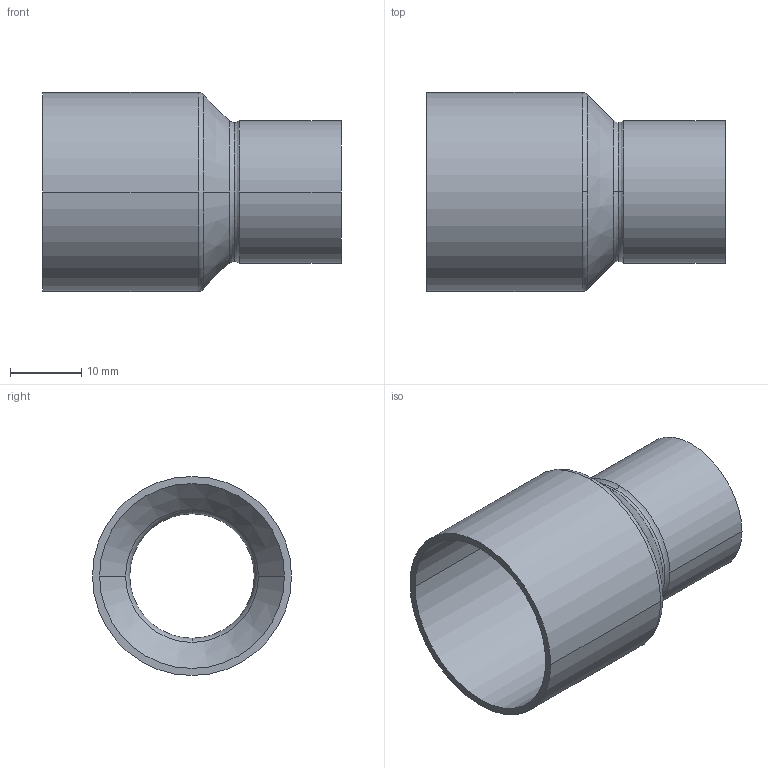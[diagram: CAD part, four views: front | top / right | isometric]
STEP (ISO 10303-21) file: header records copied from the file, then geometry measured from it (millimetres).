
FILE_DESCRIPTION((''),'2;1');
FILE_NAME('G:\Technics\CAD\Bauteile\Serie 15243\152432818.stp','2005-10-21T12:49:40',('boden'),(''),'Autodesk Inventor 8','Autodesk Inventor 8','');
FILE_SCHEMA(('AUTOMOTIVE_DESIGN { 1 0 10303 214 1 1 1 1 }'));
Length unit declared in the file: millimetre
Products named in the file (1): 152432818
Bounding box: 42 x 28 x 28 mm (x, y, z)
Volume: 3239.4 mm3; surface area: 6624 mm2
Topology: 1 solids, 1 shells, 24 faces, 60 edges, 38 vertices
Faces by surface type: cylinder 8, torus 6, bspline 4, cone 4, plane 2
Entity records: 931 total; most frequent: CARTESIAN_POINT 299, DIRECTION 150, ORIENTED_EDGE 120, AXIS2_PLACEMENT_3D 69, EDGE_CURVE 60, CIRCLE 48, VERTEX_POINT 38, EDGE_LOOP 26
